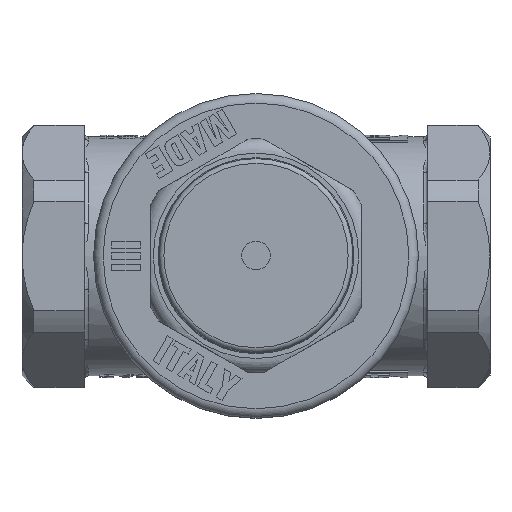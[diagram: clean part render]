
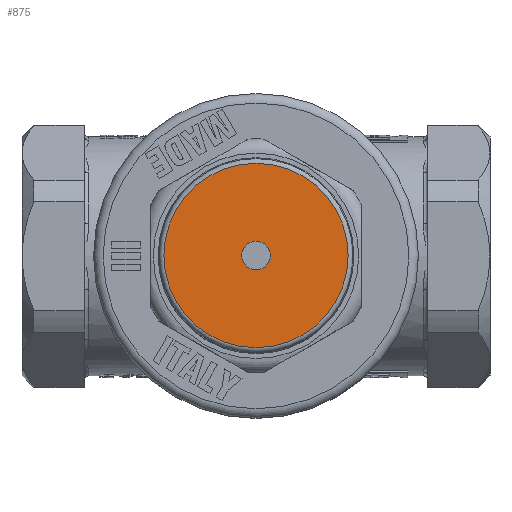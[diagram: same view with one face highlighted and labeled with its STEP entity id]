
A CAD part, top view. The second image highlights one B-rep face of the part: STEP entity #875.
In plain terms, the highlighted planar face has unit normal (0, 0, 1).
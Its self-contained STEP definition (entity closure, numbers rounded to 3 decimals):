
#799=CARTESIAN_POINT('',(-9.65,0.,49.));
#800=VERTEX_POINT('',#799);
#827=CARTESIAN_POINT('',(9.65,-0.,49.));
#828=VERTEX_POINT('',#827);
#829=CARTESIAN_POINT('',(0.,-0.,49.));
#830=DIRECTION('',(0.,-0.,-1.));
#831=DIRECTION('',(1.,0.,0.));
#832=AXIS2_PLACEMENT_3D('',#829,#830,#831);
#833=CIRCLE('',#832,9.65);
#834=EDGE_CURVE('',#800,#828,#833,.T.);
#836=CARTESIAN_POINT('',(0.,-0.,49.));
#837=DIRECTION('',(0.,-0.,-1.));
#838=DIRECTION('',(1.,0.,0.));
#839=AXIS2_PLACEMENT_3D('',#836,#837,#838);
#840=CIRCLE('',#839,9.65);
#841=EDGE_CURVE('',#828,#800,#840,.T.);
#846=CARTESIAN_POINT('',(-1.5,0.,49.));
#847=DIRECTION('',(-0.,0.,1.));
#848=DIRECTION('',(-1.,0.,-0.));
#849=AXIS2_PLACEMENT_3D('',#846,#847,#848);
#850=PLANE('',#849);
#851=ORIENTED_EDGE('',*,*,#834,.F.);
#852=ORIENTED_EDGE('',*,*,#841,.F.);
#853=EDGE_LOOP('',(#851,#852));
#854=FACE_BOUND('',#853,.T.);
#855=CARTESIAN_POINT('',(-1.5,0.,49.));
#856=VERTEX_POINT('',#855);
#857=CARTESIAN_POINT('',(1.5,-0.,49.));
#858=VERTEX_POINT('',#857);
#859=CARTESIAN_POINT('',(0.,-0.,49.));
#860=DIRECTION('',(-0.,0.,1.));
#861=DIRECTION('',(1.,0.,0.));
#862=AXIS2_PLACEMENT_3D('',#859,#860,#861);
#863=CIRCLE('',#862,1.5);
#864=EDGE_CURVE('',#856,#858,#863,.T.);
#865=ORIENTED_EDGE('',*,*,#864,.F.);
#866=CARTESIAN_POINT('',(0.,-0.,49.));
#867=DIRECTION('',(-0.,0.,1.));
#868=DIRECTION('',(1.,0.,0.));
#869=AXIS2_PLACEMENT_3D('',#866,#867,#868);
#870=CIRCLE('',#869,1.5);
#871=EDGE_CURVE('',#858,#856,#870,.T.);
#872=ORIENTED_EDGE('',*,*,#871,.F.);
#873=EDGE_LOOP('',(#865,#872));
#874=FACE_BOUND('',#873,.T.);
#875=ADVANCED_FACE('',(#854,#874),#850,.T.);
